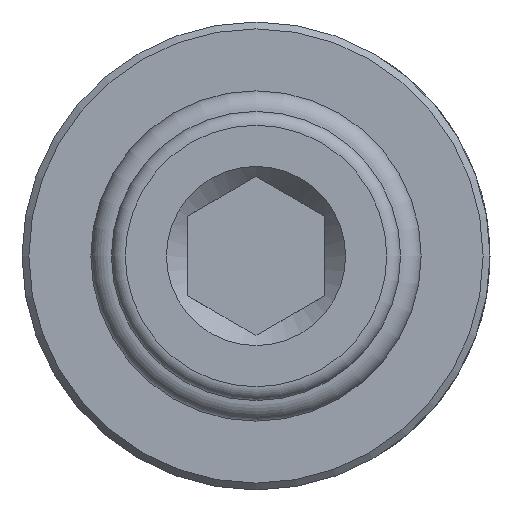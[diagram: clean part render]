
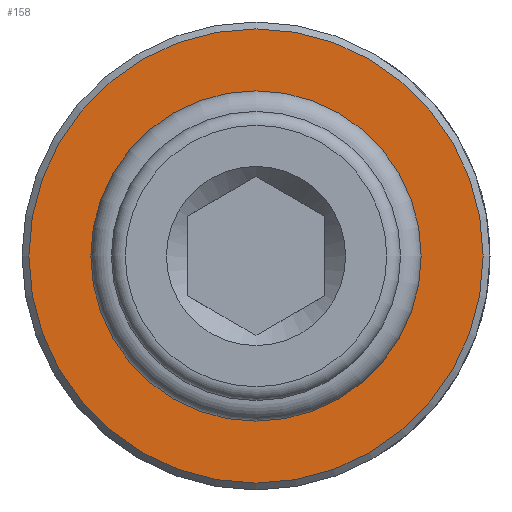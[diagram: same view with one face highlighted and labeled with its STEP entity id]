
A CAD part, left-side view. The second image highlights one B-rep face of the part: STEP entity #158.
In plain terms, the highlighted planar face has unit normal (-1, 0, 0).
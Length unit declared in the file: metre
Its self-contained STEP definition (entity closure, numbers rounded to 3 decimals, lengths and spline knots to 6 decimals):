
#158 = ADVANCED_FACE( '', ( #328, #329 ), #330, .F. );
#328 = FACE_BOUND( '', #1678, .T. );
#329 = FACE_OUTER_BOUND( '', #1679, .T. );
#330 = PLANE( '', #1680 );
#1678 = EDGE_LOOP( '', ( #2152 ) );
#1679 = EDGE_LOOP( '', ( #2153 ) );
#1680 = AXIS2_PLACEMENT_3D( '', #2154, #2155, #2156 );
#2152 = ORIENTED_EDGE( '', *, *, #2690, .F. );
#2153 = ORIENTED_EDGE( '', *, *, #2691, .T. );
#2154 = CARTESIAN_POINT( '', ( -0.0818, 0., 0.0165 ) );
#2155 = DIRECTION( '', ( 1., 0., 0. ) );
#2156 = DIRECTION( '', ( 0., 0., -1. ) );
#2690 = EDGE_CURVE( '', #2921, #2921, #2922, .T. );
#2691 = EDGE_CURVE( '', #2923, #2923, #2924, .T. );
#2921 = VERTEX_POINT( '', #4292 );
#2922 = CIRCLE( '', #4293, 0.009 );
#2923 = VERTEX_POINT( '', #4294 );
#2924 = CIRCLE( '', #4295, 0.0165 );
#4292 = CARTESIAN_POINT( '', ( -0.0818, 0., 0.009 ) );
#4293 = AXIS2_PLACEMENT_3D( '', #4607, #4608, #4609 );
#4294 = CARTESIAN_POINT( '', ( -0.0818, 0., 0.0165 ) );
#4295 = AXIS2_PLACEMENT_3D( '', #4610, #4611, #4612 );
#4607 = CARTESIAN_POINT( '', ( -0.0818, 0., 0. ) );
#4608 = DIRECTION( '', ( -1., 0., 0. ) );
#4609 = DIRECTION( '', ( 0., 0., 1. ) );
#4610 = CARTESIAN_POINT( '', ( -0.0818, 0., 0. ) );
#4611 = DIRECTION( '', ( -1., 0., 0. ) );
#4612 = DIRECTION( '', ( 0., 0., 1. ) );
